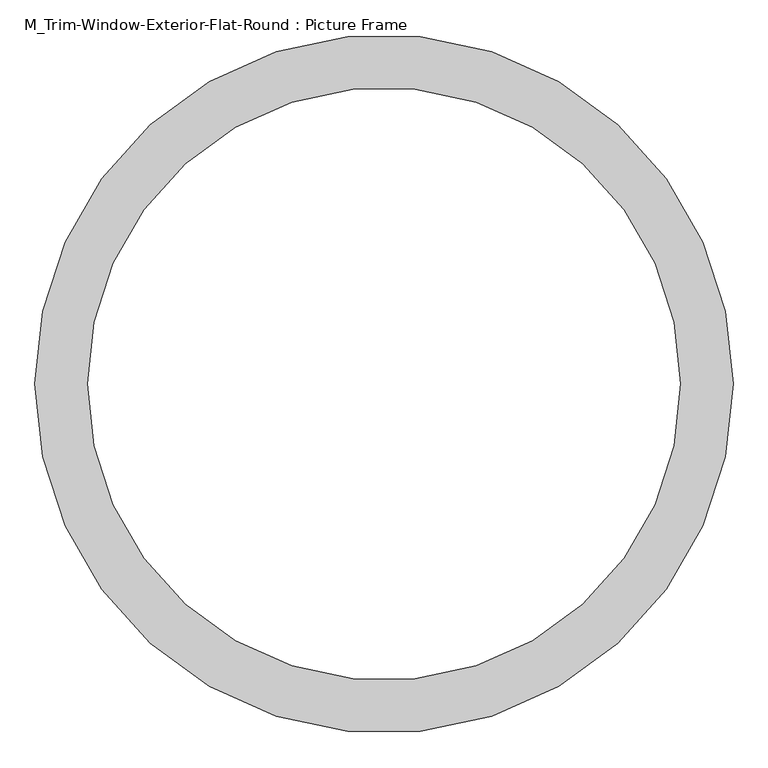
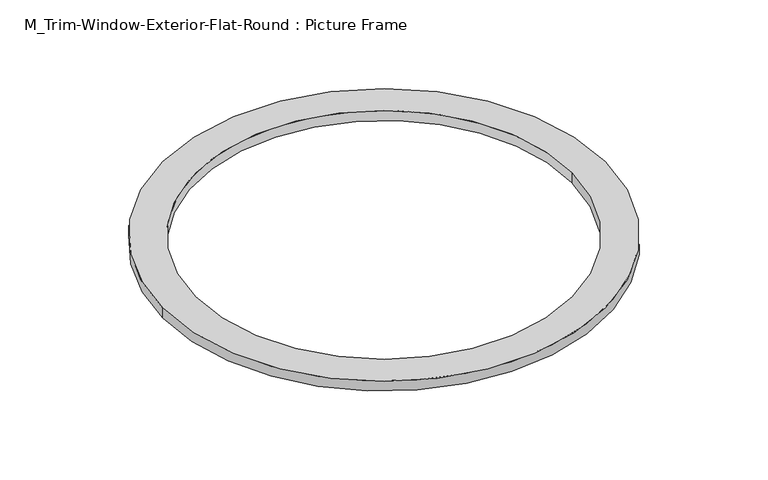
"""IFC4 building model written with IfcOpenShell, lengths in millimetres: proxy geometry, M_Trim-Window-Exterior-Flat-Round : Picture Frame."""

from ifc_helpers import new_model, si_unit, point, frame_2d, origin, origin_with_axes, place, context, project, spatial, circle_curve, trimmed, segment, composite_curve, outline, extrude, source, transform, mapped, element, save


def m_trim_window_exterior_flat_round_picture_frame_20400262(model_context):
    return source(origin(), model_context, "Body", "SweptSolid", [
        extrude(outline(composite_curve([segment(trimmed(circle_curve(frame_2d((0.0, -450.0)), 530.0), [point((-530.0, -450.0))], [point((530.0, -450.0))], False, "CARTESIAN"), True, "CONTINUOUS"), segment(trimmed(circle_curve(frame_2d((0.0, -450.0)), 530.0), [point((530.0, -450.0))], [point((-530.0, -450.0))], False, "CARTESIAN"), True, "CONTINUOUS")], self_intersect=False), holes=[composite_curve([segment(trimmed(circle_curve(frame_2d((0.0, -450.0)), 450.0), [point((-450.0, -450.0))], [point((450.0, -450.0))], True, "CARTESIAN"), True, "CONTINUOUS"), segment(trimmed(circle_curve(frame_2d((0.0, -450.0)), 450.0), [point((450.0, -450.0))], [point((-450.0, -450.0))], True, "CARTESIAN"), True, "CONTINUOUS")], self_intersect=False)]), origin_with_axes(), (0.0, 0.0, 1.0), 25.0),
    ])


if __name__ == "__main__":
    model = new_model("IFC4")
    model_context = context("Model", 3, world=origin())
    ifc_project = project(units=[si_unit("LENGTHUNIT", "METRE", prefix="MILLI")], contexts=[model_context])
    site = spatial("IfcSite", under=ifc_project)
    building = spatial("IfcBuilding", under=site)
    placement = place(None, origin())
    m_trim_window_exterior_flat_round_picture_frame_shape = m_trim_window_exterior_flat_round_picture_frame_20400262(model_context)
    element("IfcBuildingElementProxy", 1, Name="M_Trim-Window-Exterior-Flat-Round : Picture Frame", ObjectType="M_Trim-Window-Exterior-Flat-Round : Picture Frame", at=placement, inside=building, context=model_context, shape_type="MappedRepresentation", body=[
        mapped(m_trim_window_exterior_flat_round_picture_frame_shape, transform((0.0, 0.0, 0.0), x_axis=(1.0, 0.0, 0.0), y_axis=(0.0, 1.0, 0.0), z_axis=(0.0, 0.0, 1.0))),
    ])
    save(model, "model.ifc")
